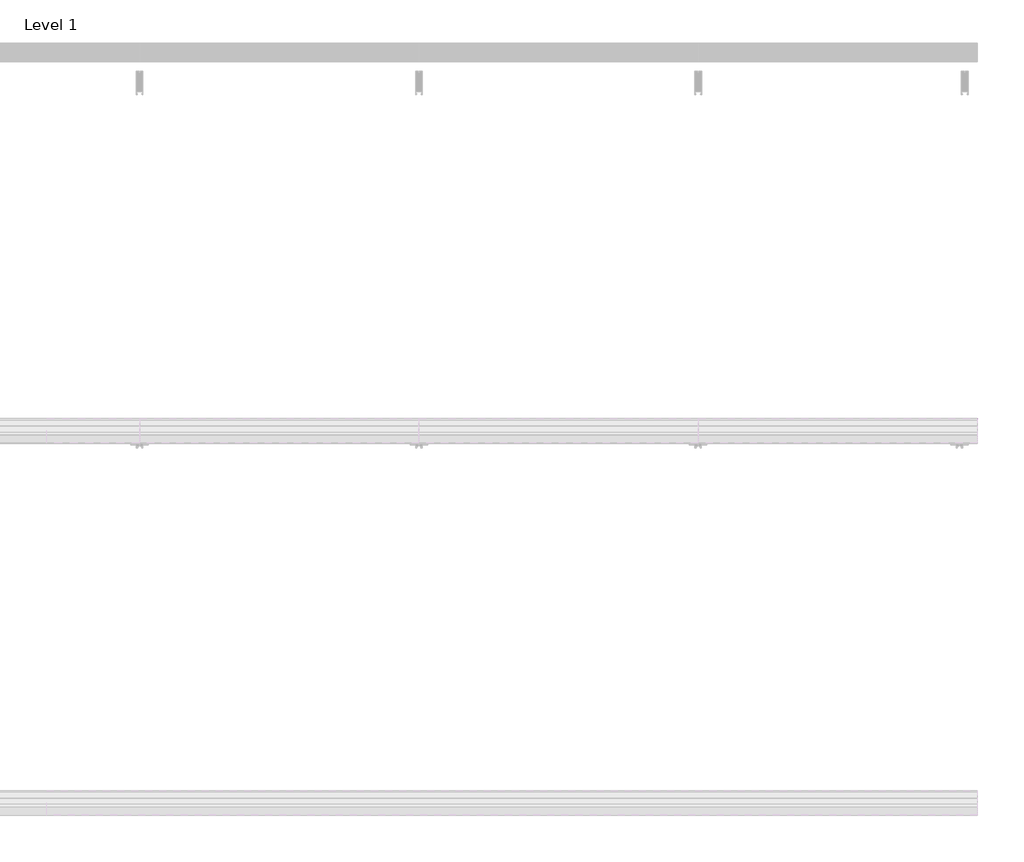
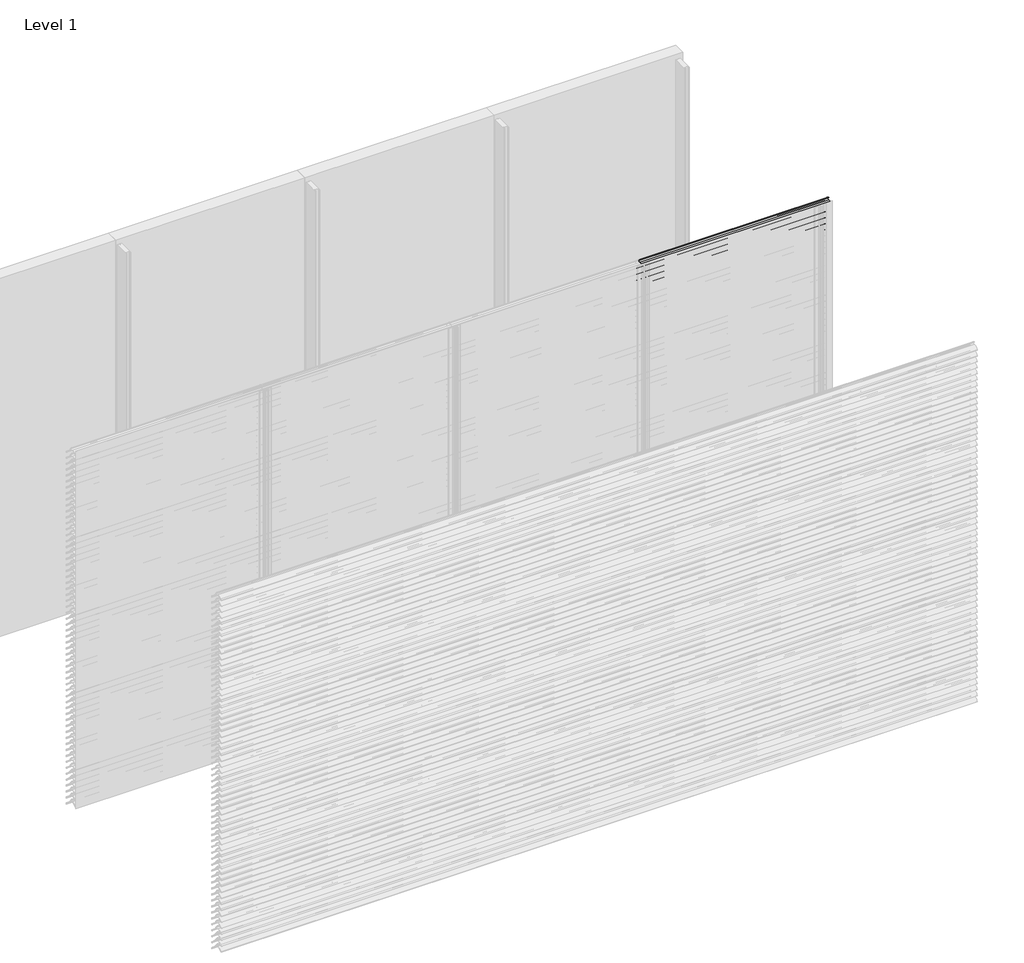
# One storey, part 16 of 173: 18 proxies.
"""IFC4 building model written with IfcOpenShell, lengths in millimetres."""

from ifc_helpers import new_model, si_unit, point, frame, frame_2d, origin, place, context, project, spatial, polyline, circle_curve, trimmed, segment, composite_curve, outline, extrude, element, save

model = new_model("IFC4")

# Units and contexts
model_context = context("Model", 3, world=origin())
ifc_project = project(units=[si_unit("LENGTHUNIT", "METRE", prefix="MILLI")], contexts=[model_context])

# Site, building, storey
site = spatial("IfcSite", under=ifc_project)
building = spatial("IfcBuilding", under=site)
storey = spatial("IfcBuildingStorey", under=building, Name="Level 1", Elevation=0.0)

# Proxies
placement = place(None, origin())
element("IfcBuildingElementProxy", 1, Name="Wall Sweeps", at=placement, inside=storey, context=model_context, shape_type="SweptSolid", body=[
    extrude(outline(composite_curve([segment(polyline([(-53998.0, 559.1474905), (-53998.0, 561.6227417)]), True, "CONTINUOUS"), segment(trimmed(circle_curve(frame_2d((-53951.2682172, 516.2200208)), 65.1557103), [point((-53998.0, 561.6227417))], [point((-53954.4014323, 581.3003524))], False, "CARTESIAN"), True, "CONTINUOUS"), segment(polyline([(-53954.4014323, 581.3003524), (-53934.8315836, 581.3003524)]), True, "CONTINUOUS"), segment(trimmed(circle_curve(frame_2d((-53732.7329489, 728.5533172)), 250.0545817), [point((-53934.8315836, 581.3003524))], [point((-53941.4452143, 590.8344583))], False, "CARTESIAN"), True, "CONTINUOUS"), segment(trimmed(circle_curve(frame_2d((-53953.2981792, 585.1737835)), 13.1352966), [point((-53941.4452143, 590.8344583))], [point((-53953.8171475, 598.298824))], True, "CARTESIAN"), True, "CONTINUOUS"), segment(polyline([(-53953.8171475, 598.298824), (-53953.8171475, 600.0)]), True, "CONTINUOUS"), segment(trimmed(circle_curve(frame_2d((-53953.2981792, 585.1737835)), 14.8352966), [point((-53953.8171475, 600.0))], [point((-53939.9637661, 591.6760487))], False, "CARTESIAN"), True, "CONTINUOUS"), segment(trimmed(circle_curve(frame_2d((-53732.7329489, 728.5533172)), 248.3545817), [point((-53939.9637661, 591.6760487))], [point((-53873.8787895, 524.2059416))], True, "CARTESIAN"), True, "CONTINUOUS"), segment(trimmed(circle_curve(frame_2d((-53883.8147537, 511.6649442)), 16.0), [point((-53873.8787895, 524.2059416))], [point((-53867.8648347, 510.4))], False, "CARTESIAN"), True, "CONTINUOUS"), segment(polyline([(-53867.8648347, 510.4), (-53869.6712069, 510.4)]), True, "CONTINUOUS"), segment(trimmed(circle_curve(frame_2d((-53883.8147537, 511.6649442)), 14.2), [point((-53869.6712069, 510.4))], [point((-53874.9518628, 522.7594998))], True, "CARTESIAN"), True, "CONTINUOUS"), segment(trimmed(circle_curve(frame_2d((-53732.7329489, 728.5533172)), 250.1545817), [point((-53874.9518628, 522.7594998))], [point((-53933.7064024, 579.6003524))], False, "CARTESIAN"), True, "CONTINUOUS"), segment(polyline([(-53933.7064024, 579.6003524), (-53954.3602632, 579.6003524)]), True, "CONTINUOUS"), segment(trimmed(circle_curve(frame_2d((-53951.2682172, 516.2200208)), 63.4557103), [point((-53954.3602632, 579.6003524))], [point((-53998.0, 559.1474905))], True, "CARTESIAN"), True, "CONTINUOUS")], self_intersect=False)), frame((3000.0, 0.0, 0.0), z_axis=(1.0, 0.0, 0.0), x_axis=(0.0, 1.0, 0.0)), (0.0, 0.0, 1.0), 1500.0),
])
element("IfcBuildingElementProxy", 2, Name="Wall Sweeps", at=placement, inside=storey, context=model_context, shape_type="SweptSolid", body=[
    extrude(outline(composite_curve([segment(polyline([(-53998.0, 509.1474905), (-53998.0, 511.6227417)]), True, "CONTINUOUS"), segment(trimmed(circle_curve(frame_2d((-53951.2682172, 466.2200208)), 65.1557103), [point((-53998.0, 511.6227417))], [point((-53954.4014323, 531.3003524))], False, "CARTESIAN"), True, "CONTINUOUS"), segment(polyline([(-53954.4014323, 531.3003524), (-53934.8315836, 531.3003524)]), True, "CONTINUOUS"), segment(trimmed(circle_curve(frame_2d((-53732.7329489, 678.5533172)), 250.0545817), [point((-53934.8315836, 531.3003524))], [point((-53941.4452143, 540.8344583))], False, "CARTESIAN"), True, "CONTINUOUS"), segment(trimmed(circle_curve(frame_2d((-53953.2981792, 535.1737835)), 13.1352966), [point((-53941.4452143, 540.8344583))], [point((-53953.8171475, 548.298824))], True, "CARTESIAN"), True, "CONTINUOUS"), segment(polyline([(-53953.8171475, 548.298824), (-53953.8171475, 550.0)]), True, "CONTINUOUS"), segment(trimmed(circle_curve(frame_2d((-53953.2981792, 535.1737835)), 14.8352966), [point((-53953.8171475, 550.0))], [point((-53939.9637661, 541.6760487))], False, "CARTESIAN"), True, "CONTINUOUS"), segment(trimmed(circle_curve(frame_2d((-53732.7329489, 678.5533172)), 248.3545817), [point((-53939.9637661, 541.6760487))], [point((-53873.8787895, 474.2059416))], True, "CARTESIAN"), True, "CONTINUOUS"), segment(trimmed(circle_curve(frame_2d((-53883.8147537, 461.6649442)), 16.0), [point((-53873.8787895, 474.2059416))], [point((-53867.8648347, 460.4))], False, "CARTESIAN"), True, "CONTINUOUS"), segment(polyline([(-53867.8648347, 460.4), (-53869.6712069, 460.4)]), True, "CONTINUOUS"), segment(trimmed(circle_curve(frame_2d((-53883.8147537, 461.6649442)), 14.2), [point((-53869.6712069, 460.4))], [point((-53874.9518628, 472.7594998))], True, "CARTESIAN"), True, "CONTINUOUS"), segment(trimmed(circle_curve(frame_2d((-53732.7329489, 678.5533172)), 250.1545817), [point((-53874.9518628, 472.7594998))], [point((-53933.7064024, 529.6003524))], False, "CARTESIAN"), True, "CONTINUOUS"), segment(polyline([(-53933.7064024, 529.6003524), (-53954.3602632, 529.6003524)]), True, "CONTINUOUS"), segment(trimmed(circle_curve(frame_2d((-53951.2682172, 466.2200208)), 63.4557103), [point((-53954.3602632, 529.6003524))], [point((-53998.0, 509.1474905))], True, "CARTESIAN"), True, "CONTINUOUS")], self_intersect=False)), frame((3000.0, 0.0, 0.0), z_axis=(1.0, 0.0, 0.0), x_axis=(0.0, 1.0, 0.0)), (0.0, 0.0, 1.0), 1500.0),
])
element("IfcBuildingElementProxy", 3, Name="Wall Sweeps", at=placement, inside=storey, context=model_context, shape_type="SweptSolid", body=[
    extrude(outline(composite_curve([segment(polyline([(-53998.0, 459.1474905), (-53998.0, 461.6227417)]), True, "CONTINUOUS"), segment(trimmed(circle_curve(frame_2d((-53951.2682172, 416.2200208)), 65.1557103), [point((-53998.0, 461.6227417))], [point((-53954.4014323, 481.3003524))], False, "CARTESIAN"), True, "CONTINUOUS"), segment(polyline([(-53954.4014323, 481.3003524), (-53934.8315836, 481.3003524)]), True, "CONTINUOUS"), segment(trimmed(circle_curve(frame_2d((-53732.7329489, 628.5533172)), 250.0545817), [point((-53934.8315836, 481.3003524))], [point((-53941.4452143, 490.8344583))], False, "CARTESIAN"), True, "CONTINUOUS"), segment(trimmed(circle_curve(frame_2d((-53953.2981792, 485.1737835)), 13.1352966), [point((-53941.4452143, 490.8344583))], [point((-53953.8171475, 498.298824))], True, "CARTESIAN"), True, "CONTINUOUS"), segment(polyline([(-53953.8171475, 498.298824), (-53953.8171475, 500.0)]), True, "CONTINUOUS"), segment(trimmed(circle_curve(frame_2d((-53953.2981792, 485.1737835)), 14.8352966), [point((-53953.8171475, 500.0))], [point((-53939.9637661, 491.6760487))], False, "CARTESIAN"), True, "CONTINUOUS"), segment(trimmed(circle_curve(frame_2d((-53732.7329489, 628.5533172)), 248.3545817), [point((-53939.9637661, 491.6760487))], [point((-53873.8787895, 424.2059416))], True, "CARTESIAN"), True, "CONTINUOUS"), segment(trimmed(circle_curve(frame_2d((-53883.8147537, 411.6649442)), 16.0), [point((-53873.8787895, 424.2059416))], [point((-53867.8648347, 410.4))], False, "CARTESIAN"), True, "CONTINUOUS"), segment(polyline([(-53867.8648347, 410.4), (-53869.6712069, 410.4)]), True, "CONTINUOUS"), segment(trimmed(circle_curve(frame_2d((-53883.8147537, 411.6649442)), 14.2), [point((-53869.6712069, 410.4))], [point((-53874.9518628, 422.7594998))], True, "CARTESIAN"), True, "CONTINUOUS"), segment(trimmed(circle_curve(frame_2d((-53732.7329489, 628.5533172)), 250.1545817), [point((-53874.9518628, 422.7594998))], [point((-53933.7064024, 479.6003524))], False, "CARTESIAN"), True, "CONTINUOUS"), segment(polyline([(-53933.7064024, 479.6003524), (-53954.3602632, 479.6003524)]), True, "CONTINUOUS"), segment(trimmed(circle_curve(frame_2d((-53951.2682172, 416.2200208)), 63.4557103), [point((-53954.3602632, 479.6003524))], [point((-53998.0, 459.1474905))], True, "CARTESIAN"), True, "CONTINUOUS")], self_intersect=False)), frame((3000.0, 0.0, 0.0), z_axis=(1.0, 0.0, 0.0), x_axis=(0.0, 1.0, 0.0)), (0.0, 0.0, 1.0), 1500.0),
])
element("IfcBuildingElementProxy", 4, Name="Wall Sweeps", at=placement, inside=storey, context=model_context, shape_type="SweptSolid", body=[
    extrude(outline(composite_curve([segment(polyline([(-53998.0, 409.1474905), (-53998.0, 411.6227417)]), True, "CONTINUOUS"), segment(trimmed(circle_curve(frame_2d((-53951.2682172, 366.2200208)), 65.1557103), [point((-53998.0, 411.6227417))], [point((-53954.4014323, 431.3003524))], False, "CARTESIAN"), True, "CONTINUOUS"), segment(polyline([(-53954.4014323, 431.3003524), (-53934.8315836, 431.3003524)]), True, "CONTINUOUS"), segment(trimmed(circle_curve(frame_2d((-53732.7329489, 578.5533172)), 250.0545817), [point((-53934.8315836, 431.3003524))], [point((-53941.4452143, 440.8344583))], False, "CARTESIAN"), True, "CONTINUOUS"), segment(trimmed(circle_curve(frame_2d((-53953.2981792, 435.1737835)), 13.1352966), [point((-53941.4452143, 440.8344583))], [point((-53953.8171475, 448.298824))], True, "CARTESIAN"), True, "CONTINUOUS"), segment(polyline([(-53953.8171475, 448.298824), (-53953.8171475, 450.0)]), True, "CONTINUOUS"), segment(trimmed(circle_curve(frame_2d((-53953.2981792, 435.1737835)), 14.8352966), [point((-53953.8171475, 450.0))], [point((-53939.9637661, 441.6760487))], False, "CARTESIAN"), True, "CONTINUOUS"), segment(trimmed(circle_curve(frame_2d((-53732.7329489, 578.5533172)), 248.3545817), [point((-53939.9637661, 441.6760487))], [point((-53873.8787895, 374.2059416))], True, "CARTESIAN"), True, "CONTINUOUS"), segment(trimmed(circle_curve(frame_2d((-53883.8147537, 361.6649442)), 16.0), [point((-53873.8787895, 374.2059416))], [point((-53867.8648347, 360.4))], False, "CARTESIAN"), True, "CONTINUOUS"), segment(polyline([(-53867.8648347, 360.4), (-53869.6712069, 360.4)]), True, "CONTINUOUS"), segment(trimmed(circle_curve(frame_2d((-53883.8147537, 361.6649442)), 14.2), [point((-53869.6712069, 360.4))], [point((-53874.9518628, 372.7594998))], True, "CARTESIAN"), True, "CONTINUOUS"), segment(trimmed(circle_curve(frame_2d((-53732.7329489, 578.5533172)), 250.1545817), [point((-53874.9518628, 372.7594998))], [point((-53933.7064024, 429.6003524))], False, "CARTESIAN"), True, "CONTINUOUS"), segment(polyline([(-53933.7064024, 429.6003524), (-53954.3602632, 429.6003524)]), True, "CONTINUOUS"), segment(trimmed(circle_curve(frame_2d((-53951.2682172, 366.2200208)), 63.4557103), [point((-53954.3602632, 429.6003524))], [point((-53998.0, 409.1474905))], True, "CARTESIAN"), True, "CONTINUOUS")], self_intersect=False)), frame((3000.0, 0.0, 0.0), z_axis=(1.0, 0.0, 0.0), x_axis=(0.0, 1.0, 0.0)), (0.0, 0.0, 1.0), 1500.0),
])
element("IfcBuildingElementProxy", 5, Name="Wall Sweeps", at=placement, inside=storey, context=model_context, shape_type="SweptSolid", body=[
    extrude(outline(composite_curve([segment(polyline([(-53998.0, 359.1474905), (-53998.0, 361.6227417)]), True, "CONTINUOUS"), segment(trimmed(circle_curve(frame_2d((-53951.2682172, 316.2200208)), 65.1557103), [point((-53998.0, 361.6227417))], [point((-53954.4014323, 381.3003524))], False, "CARTESIAN"), True, "CONTINUOUS"), segment(polyline([(-53954.4014323, 381.3003524), (-53934.8315836, 381.3003524)]), True, "CONTINUOUS"), segment(trimmed(circle_curve(frame_2d((-53732.7329489, 528.5533172)), 250.0545817), [point((-53934.8315836, 381.3003524))], [point((-53941.4452143, 390.8344583))], False, "CARTESIAN"), True, "CONTINUOUS"), segment(trimmed(circle_curve(frame_2d((-53953.2981792, 385.1737835)), 13.1352966), [point((-53941.4452143, 390.8344583))], [point((-53953.8171475, 398.298824))], True, "CARTESIAN"), True, "CONTINUOUS"), segment(polyline([(-53953.8171475, 398.298824), (-53953.8171475, 400.0)]), True, "CONTINUOUS"), segment(trimmed(circle_curve(frame_2d((-53953.2981792, 385.1737835)), 14.8352966), [point((-53953.8171475, 400.0))], [point((-53939.9637661, 391.6760487))], False, "CARTESIAN"), True, "CONTINUOUS"), segment(trimmed(circle_curve(frame_2d((-53732.7329489, 528.5533172)), 248.3545817), [point((-53939.9637661, 391.6760487))], [point((-53873.8787895, 324.2059416))], True, "CARTESIAN"), True, "CONTINUOUS"), segment(trimmed(circle_curve(frame_2d((-53883.8147537, 311.6649442)), 16.0), [point((-53873.8787895, 324.2059416))], [point((-53867.8648347, 310.4))], False, "CARTESIAN"), True, "CONTINUOUS"), segment(polyline([(-53867.8648347, 310.4), (-53869.6712069, 310.4)]), True, "CONTINUOUS"), segment(trimmed(circle_curve(frame_2d((-53883.8147537, 311.6649442)), 14.2), [point((-53869.6712069, 310.4))], [point((-53874.9518628, 322.7594998))], True, "CARTESIAN"), True, "CONTINUOUS"), segment(trimmed(circle_curve(frame_2d((-53732.7329489, 528.5533172)), 250.1545817), [point((-53874.9518628, 322.7594998))], [point((-53933.7064024, 379.6003524))], False, "CARTESIAN"), True, "CONTINUOUS"), segment(polyline([(-53933.7064024, 379.6003524), (-53954.3602632, 379.6003524)]), True, "CONTINUOUS"), segment(trimmed(circle_curve(frame_2d((-53951.2682172, 316.2200208)), 63.4557103), [point((-53954.3602632, 379.6003524))], [point((-53998.0, 359.1474905))], True, "CARTESIAN"), True, "CONTINUOUS")], self_intersect=False)), frame((3000.0, 0.0, 0.0), z_axis=(1.0, 0.0, 0.0), x_axis=(0.0, 1.0, 0.0)), (0.0, 0.0, 1.0), 1500.0),
])
element("IfcBuildingElementProxy", 6, Name="Wall Sweeps", at=placement, inside=storey, context=model_context, shape_type="SweptSolid", body=[
    extrude(outline(composite_curve([segment(polyline([(-53998.0, 309.1474905), (-53998.0, 311.6227417)]), True, "CONTINUOUS"), segment(trimmed(circle_curve(frame_2d((-53951.2682172, 266.2200208)), 65.1557103), [point((-53998.0, 311.6227417))], [point((-53954.4014323, 331.3003524))], False, "CARTESIAN"), True, "CONTINUOUS"), segment(polyline([(-53954.4014323, 331.3003524), (-53934.8315836, 331.3003524)]), True, "CONTINUOUS"), segment(trimmed(circle_curve(frame_2d((-53732.7329489, 478.5533172)), 250.0545817), [point((-53934.8315836, 331.3003524))], [point((-53941.4452143, 340.8344583))], False, "CARTESIAN"), True, "CONTINUOUS"), segment(trimmed(circle_curve(frame_2d((-53953.2981792, 335.1737835)), 13.1352966), [point((-53941.4452143, 340.8344583))], [point((-53953.8171475, 348.298824))], True, "CARTESIAN"), True, "CONTINUOUS"), segment(polyline([(-53953.8171475, 348.298824), (-53953.8171475, 350.0)]), True, "CONTINUOUS"), segment(trimmed(circle_curve(frame_2d((-53953.2981792, 335.1737835)), 14.8352966), [point((-53953.8171475, 350.0))], [point((-53939.9637661, 341.6760487))], False, "CARTESIAN"), True, "CONTINUOUS"), segment(trimmed(circle_curve(frame_2d((-53732.7329489, 478.5533172)), 248.3545817), [point((-53939.9637661, 341.6760487))], [point((-53873.8787895, 274.2059416))], True, "CARTESIAN"), True, "CONTINUOUS"), segment(trimmed(circle_curve(frame_2d((-53883.8147537, 261.6649442)), 16.0), [point((-53873.8787895, 274.2059416))], [point((-53867.8648347, 260.4))], False, "CARTESIAN"), True, "CONTINUOUS"), segment(polyline([(-53867.8648347, 260.4), (-53869.6712069, 260.4)]), True, "CONTINUOUS"), segment(trimmed(circle_curve(frame_2d((-53883.8147537, 261.6649442)), 14.2), [point((-53869.6712069, 260.4))], [point((-53874.9518628, 272.7594998))], True, "CARTESIAN"), True, "CONTINUOUS"), segment(trimmed(circle_curve(frame_2d((-53732.7329489, 478.5533172)), 250.1545817), [point((-53874.9518628, 272.7594998))], [point((-53933.7064024, 329.6003524))], False, "CARTESIAN"), True, "CONTINUOUS"), segment(polyline([(-53933.7064024, 329.6003524), (-53954.3602632, 329.6003524)]), True, "CONTINUOUS"), segment(trimmed(circle_curve(frame_2d((-53951.2682172, 266.2200208)), 63.4557103), [point((-53954.3602632, 329.6003524))], [point((-53998.0, 309.1474905))], True, "CARTESIAN"), True, "CONTINUOUS")], self_intersect=False)), frame((3000.0, 0.0, 0.0), z_axis=(1.0, 0.0, 0.0), x_axis=(0.0, 1.0, 0.0)), (0.0, 0.0, 1.0), 1500.0),
])
element("IfcBuildingElementProxy", 7, Name="Wall Sweeps", at=placement, inside=storey, context=model_context, shape_type="SweptSolid", body=[
    extrude(outline(composite_curve([segment(polyline([(-53998.0, 259.1474905), (-53998.0, 261.6227417)]), True, "CONTINUOUS"), segment(trimmed(circle_curve(frame_2d((-53951.2682172, 216.2200208)), 65.1557103), [point((-53998.0, 261.6227417))], [point((-53954.4014323, 281.3003524))], False, "CARTESIAN"), True, "CONTINUOUS"), segment(polyline([(-53954.4014323, 281.3003524), (-53934.8315836, 281.3003524)]), True, "CONTINUOUS"), segment(trimmed(circle_curve(frame_2d((-53732.7329489, 428.5533172)), 250.0545817), [point((-53934.8315836, 281.3003524))], [point((-53941.4452143, 290.8344583))], False, "CARTESIAN"), True, "CONTINUOUS"), segment(trimmed(circle_curve(frame_2d((-53953.2981792, 285.1737835)), 13.1352966), [point((-53941.4452143, 290.8344583))], [point((-53953.8171475, 298.298824))], True, "CARTESIAN"), True, "CONTINUOUS"), segment(polyline([(-53953.8171475, 298.298824), (-53953.8171475, 300.0)]), True, "CONTINUOUS"), segment(trimmed(circle_curve(frame_2d((-53953.2981792, 285.1737835)), 14.8352966), [point((-53953.8171475, 300.0))], [point((-53939.9637661, 291.6760487))], False, "CARTESIAN"), True, "CONTINUOUS"), segment(trimmed(circle_curve(frame_2d((-53732.7329489, 428.5533172)), 248.3545817), [point((-53939.9637661, 291.6760487))], [point((-53873.8787895, 224.2059416))], True, "CARTESIAN"), True, "CONTINUOUS"), segment(trimmed(circle_curve(frame_2d((-53883.8147537, 211.6649442)), 16.0), [point((-53873.8787895, 224.2059416))], [point((-53867.8648347, 210.4))], False, "CARTESIAN"), True, "CONTINUOUS"), segment(polyline([(-53867.8648347, 210.4), (-53869.6712069, 210.4)]), True, "CONTINUOUS"), segment(trimmed(circle_curve(frame_2d((-53883.8147537, 211.6649442)), 14.2), [point((-53869.6712069, 210.4))], [point((-53874.9518628, 222.7594998))], True, "CARTESIAN"), True, "CONTINUOUS"), segment(trimmed(circle_curve(frame_2d((-53732.7329489, 428.5533172)), 250.1545817), [point((-53874.9518628, 222.7594998))], [point((-53933.7064024, 279.6003524))], False, "CARTESIAN"), True, "CONTINUOUS"), segment(polyline([(-53933.7064024, 279.6003524), (-53954.3602632, 279.6003524)]), True, "CONTINUOUS"), segment(trimmed(circle_curve(frame_2d((-53951.2682172, 216.2200208)), 63.4557103), [point((-53954.3602632, 279.6003524))], [point((-53998.0, 259.1474905))], True, "CARTESIAN"), True, "CONTINUOUS")], self_intersect=False)), frame((3000.0, 0.0, 0.0), z_axis=(1.0, 0.0, 0.0), x_axis=(0.0, 1.0, 0.0)), (0.0, 0.0, 1.0), 1500.0),
])
element("IfcBuildingElementProxy", 8, Name="Wall Sweeps", at=placement, inside=storey, context=model_context, shape_type="SweptSolid", body=[
    extrude(outline(composite_curve([segment(polyline([(-53998.0, 209.1474905), (-53998.0, 211.6227417)]), True, "CONTINUOUS"), segment(trimmed(circle_curve(frame_2d((-53951.2682172, 166.2200208)), 65.1557103), [point((-53998.0, 211.6227417))], [point((-53954.4014323, 231.3003524))], False, "CARTESIAN"), True, "CONTINUOUS"), segment(polyline([(-53954.4014323, 231.3003524), (-53934.8315836, 231.3003524)]), True, "CONTINUOUS"), segment(trimmed(circle_curve(frame_2d((-53732.7329489, 378.5533172)), 250.0545817), [point((-53934.8315836, 231.3003524))], [point((-53941.4452143, 240.8344583))], False, "CARTESIAN"), True, "CONTINUOUS"), segment(trimmed(circle_curve(frame_2d((-53953.2981792, 235.1737835)), 13.1352966), [point((-53941.4452143, 240.8344583))], [point((-53953.8171475, 248.298824))], True, "CARTESIAN"), True, "CONTINUOUS"), segment(polyline([(-53953.8171475, 248.298824), (-53953.8171475, 250.0)]), True, "CONTINUOUS"), segment(trimmed(circle_curve(frame_2d((-53953.2981792, 235.1737835)), 14.8352966), [point((-53953.8171475, 250.0))], [point((-53939.9637661, 241.6760487))], False, "CARTESIAN"), True, "CONTINUOUS"), segment(trimmed(circle_curve(frame_2d((-53732.7329489, 378.5533172)), 248.3545817), [point((-53939.9637661, 241.6760487))], [point((-53873.8787895, 174.2059416))], True, "CARTESIAN"), True, "CONTINUOUS"), segment(trimmed(circle_curve(frame_2d((-53883.8147537, 161.6649442)), 16.0), [point((-53873.8787895, 174.2059416))], [point((-53867.8648347, 160.4))], False, "CARTESIAN"), True, "CONTINUOUS"), segment(polyline([(-53867.8648347, 160.4), (-53869.6712069, 160.4)]), True, "CONTINUOUS"), segment(trimmed(circle_curve(frame_2d((-53883.8147537, 161.6649442)), 14.2), [point((-53869.6712069, 160.4))], [point((-53874.9518628, 172.7594998))], True, "CARTESIAN"), True, "CONTINUOUS"), segment(trimmed(circle_curve(frame_2d((-53732.7329489, 378.5533172)), 250.1545817), [point((-53874.9518628, 172.7594998))], [point((-53933.7064024, 229.6003524))], False, "CARTESIAN"), True, "CONTINUOUS"), segment(polyline([(-53933.7064024, 229.6003524), (-53954.3602632, 229.6003524)]), True, "CONTINUOUS"), segment(trimmed(circle_curve(frame_2d((-53951.2682172, 166.2200208)), 63.4557103), [point((-53954.3602632, 229.6003524))], [point((-53998.0, 209.1474905))], True, "CARTESIAN"), True, "CONTINUOUS")], self_intersect=False)), frame((3000.0, 0.0, 0.0), z_axis=(1.0, 0.0, 0.0), x_axis=(0.0, 1.0, 0.0)), (0.0, 0.0, 1.0), 1500.0),
])
element("IfcBuildingElementProxy", 9, Name="Wall Sweeps", at=placement, inside=storey, context=model_context, shape_type="SweptSolid", body=[
    extrude(outline(composite_curve([segment(polyline([(-53998.0, 159.1474905), (-53998.0, 161.6227417)]), True, "CONTINUOUS"), segment(trimmed(circle_curve(frame_2d((-53951.2682172, 116.2200208)), 65.1557103), [point((-53998.0, 161.6227417))], [point((-53954.4014323, 181.3003524))], False, "CARTESIAN"), True, "CONTINUOUS"), segment(polyline([(-53954.4014323, 181.3003524), (-53934.8315836, 181.3003524)]), True, "CONTINUOUS"), segment(trimmed(circle_curve(frame_2d((-53732.7329489, 328.5533172)), 250.0545817), [point((-53934.8315836, 181.3003524))], [point((-53941.4452143, 190.8344583))], False, "CARTESIAN"), True, "CONTINUOUS"), segment(trimmed(circle_curve(frame_2d((-53953.2981792, 185.1737835)), 13.1352966), [point((-53941.4452143, 190.8344583))], [point((-53953.8171475, 198.298824))], True, "CARTESIAN"), True, "CONTINUOUS"), segment(polyline([(-53953.8171475, 198.298824), (-53953.8171475, 200.0)]), True, "CONTINUOUS"), segment(trimmed(circle_curve(frame_2d((-53953.2981792, 185.1737835)), 14.8352966), [point((-53953.8171475, 200.0))], [point((-53939.9637661, 191.6760487))], False, "CARTESIAN"), True, "CONTINUOUS"), segment(trimmed(circle_curve(frame_2d((-53732.7329489, 328.5533172)), 248.3545817), [point((-53939.9637661, 191.6760487))], [point((-53873.8787895, 124.2059416))], True, "CARTESIAN"), True, "CONTINUOUS"), segment(trimmed(circle_curve(frame_2d((-53883.8147537, 111.6649442)), 16.0), [point((-53873.8787895, 124.2059416))], [point((-53867.8648347, 110.4))], False, "CARTESIAN"), True, "CONTINUOUS"), segment(polyline([(-53867.8648347, 110.4), (-53869.6712069, 110.4)]), True, "CONTINUOUS"), segment(trimmed(circle_curve(frame_2d((-53883.8147537, 111.6649442)), 14.2), [point((-53869.6712069, 110.4))], [point((-53874.9518628, 122.7594998))], True, "CARTESIAN"), True, "CONTINUOUS"), segment(trimmed(circle_curve(frame_2d((-53732.7329489, 328.5533172)), 250.1545817), [point((-53874.9518628, 122.7594998))], [point((-53933.7064024, 179.6003524))], False, "CARTESIAN"), True, "CONTINUOUS"), segment(polyline([(-53933.7064024, 179.6003524), (-53954.3602632, 179.6003524)]), True, "CONTINUOUS"), segment(trimmed(circle_curve(frame_2d((-53951.2682172, 116.2200208)), 63.4557103), [point((-53954.3602632, 179.6003524))], [point((-53998.0, 159.1474905))], True, "CARTESIAN"), True, "CONTINUOUS")], self_intersect=False)), frame((3000.0, 0.0, 0.0), z_axis=(1.0, 0.0, 0.0), x_axis=(0.0, 1.0, 0.0)), (0.0, 0.0, 1.0), 1500.0),
])
element("IfcBuildingElementProxy", 10, Name="Wall Sweeps", at=placement, inside=storey, context=model_context, shape_type="SweptSolid", body=[
    extrude(outline(composite_curve([segment(polyline([(-53998.0, 109.1474905), (-53998.0, 111.6227417)]), True, "CONTINUOUS"), segment(trimmed(circle_curve(frame_2d((-53951.2682172, 66.2200208)), 65.1557103), [point((-53998.0, 111.6227417))], [point((-53954.4014323, 131.3003524))], False, "CARTESIAN"), True, "CONTINUOUS"), segment(polyline([(-53954.4014323, 131.3003524), (-53934.8315836, 131.3003524)]), True, "CONTINUOUS"), segment(trimmed(circle_curve(frame_2d((-53732.7329489, 278.5533172)), 250.0545817), [point((-53934.8315836, 131.3003524))], [point((-53941.4452143, 140.8344583))], False, "CARTESIAN"), True, "CONTINUOUS"), segment(trimmed(circle_curve(frame_2d((-53953.2981792, 135.1737835)), 13.1352966), [point((-53941.4452143, 140.8344583))], [point((-53953.8171475, 148.298824))], True, "CARTESIAN"), True, "CONTINUOUS"), segment(polyline([(-53953.8171475, 148.298824), (-53953.8171475, 150.0)]), True, "CONTINUOUS"), segment(trimmed(circle_curve(frame_2d((-53953.2981792, 135.1737835)), 14.8352966), [point((-53953.8171475, 150.0))], [point((-53939.9637661, 141.6760487))], False, "CARTESIAN"), True, "CONTINUOUS"), segment(trimmed(circle_curve(frame_2d((-53732.7329489, 278.5533172)), 248.3545817), [point((-53939.9637661, 141.6760487))], [point((-53873.8787895, 74.2059416))], True, "CARTESIAN"), True, "CONTINUOUS"), segment(trimmed(circle_curve(frame_2d((-53883.8147537, 61.6649442)), 16.0), [point((-53873.8787895, 74.2059416))], [point((-53867.8648347, 60.4))], False, "CARTESIAN"), True, "CONTINUOUS"), segment(polyline([(-53867.8648347, 60.4), (-53869.6712069, 60.4)]), True, "CONTINUOUS"), segment(trimmed(circle_curve(frame_2d((-53883.8147537, 61.6649442)), 14.2), [point((-53869.6712069, 60.4))], [point((-53874.9518628, 72.7594998))], True, "CARTESIAN"), True, "CONTINUOUS"), segment(trimmed(circle_curve(frame_2d((-53732.7329489, 278.5533172)), 250.1545817), [point((-53874.9518628, 72.7594998))], [point((-53933.7064024, 129.6003524))], False, "CARTESIAN"), True, "CONTINUOUS"), segment(polyline([(-53933.7064024, 129.6003524), (-53954.3602632, 129.6003524)]), True, "CONTINUOUS"), segment(trimmed(circle_curve(frame_2d((-53951.2682172, 66.2200208)), 63.4557103), [point((-53954.3602632, 129.6003524))], [point((-53998.0, 109.1474905))], True, "CARTESIAN"), True, "CONTINUOUS")], self_intersect=False)), frame((3000.0, 0.0, 0.0), z_axis=(1.0, 0.0, 0.0), x_axis=(0.0, 1.0, 0.0)), (0.0, 0.0, 1.0), 1500.0),
])
element("IfcBuildingElementProxy", 11, Name="Wall Sweeps", at=placement, inside=storey, context=model_context, shape_type="SweptSolid", body=[
    extrude(outline(composite_curve([segment(polyline([(-53998.0, 59.1474905), (-53998.0, 61.6227417)]), True, "CONTINUOUS"), segment(trimmed(circle_curve(frame_2d((-53951.2682172, 16.2200208)), 65.1557103), [point((-53998.0, 61.6227417))], [point((-53954.4014323, 81.3003524))], False, "CARTESIAN"), True, "CONTINUOUS"), segment(polyline([(-53954.4014323, 81.3003524), (-53934.8315836, 81.3003524)]), True, "CONTINUOUS"), segment(trimmed(circle_curve(frame_2d((-53732.7329489, 228.5533172)), 250.0545817), [point((-53934.8315836, 81.3003524))], [point((-53941.4452143, 90.8344583))], False, "CARTESIAN"), True, "CONTINUOUS"), segment(trimmed(circle_curve(frame_2d((-53953.2981792, 85.1737835)), 13.1352966), [point((-53941.4452143, 90.8344583))], [point((-53953.8171475, 98.298824))], True, "CARTESIAN"), True, "CONTINUOUS"), segment(polyline([(-53953.8171475, 98.298824), (-53953.8171475, 100.0)]), True, "CONTINUOUS"), segment(trimmed(circle_curve(frame_2d((-53953.2981792, 85.1737835)), 14.8352966), [point((-53953.8171475, 100.0))], [point((-53939.9637661, 91.6760487))], False, "CARTESIAN"), True, "CONTINUOUS"), segment(trimmed(circle_curve(frame_2d((-53732.7329489, 228.5533172)), 248.3545817), [point((-53939.9637661, 91.6760487))], [point((-53873.8787895, 24.2059416))], True, "CARTESIAN"), True, "CONTINUOUS"), segment(trimmed(circle_curve(frame_2d((-53883.8147537, 11.6649442)), 16.0), [point((-53873.8787895, 24.2059416))], [point((-53867.8648347, 10.4))], False, "CARTESIAN"), True, "CONTINUOUS"), segment(polyline([(-53867.8648347, 10.4), (-53869.6712069, 10.4)]), True, "CONTINUOUS"), segment(trimmed(circle_curve(frame_2d((-53883.8147537, 11.6649442)), 14.2), [point((-53869.6712069, 10.4))], [point((-53874.9518628, 22.7594998))], True, "CARTESIAN"), True, "CONTINUOUS"), segment(trimmed(circle_curve(frame_2d((-53732.7329489, 228.5533172)), 250.1545817), [point((-53874.9518628, 22.7594998))], [point((-53933.7064024, 79.6003524))], False, "CARTESIAN"), True, "CONTINUOUS"), segment(polyline([(-53933.7064024, 79.6003524), (-53954.3602632, 79.6003524)]), True, "CONTINUOUS"), segment(trimmed(circle_curve(frame_2d((-53951.2682172, 16.2200208)), 63.4557103), [point((-53954.3602632, 79.6003524))], [point((-53998.0, 59.1474905))], True, "CARTESIAN"), True, "CONTINUOUS")], self_intersect=False)), frame((3000.0, 0.0, 0.0), z_axis=(1.0, 0.0, 0.0), x_axis=(0.0, 1.0, 0.0)), (0.0, 0.0, 1.0), 1500.0),
])
element("IfcBuildingElementProxy", 12, Name="Wall Sweeps", at=placement, inside=storey, context=model_context, shape_type="SweptSolid", body=[
    extrude(outline(composite_curve([segment(polyline([(-53998.0, 9.1474905), (-53998.0, 11.6227417)]), True, "CONTINUOUS"), segment(trimmed(circle_curve(frame_2d((-53951.2682172, -33.7799792)), 65.1557103), [point((-53998.0, 11.6227417))], [point((-53954.4014323, 31.3003524))], False, "CARTESIAN"), True, "CONTINUOUS"), segment(polyline([(-53954.4014323, 31.3003524), (-53934.8315836, 31.3003524)]), True, "CONTINUOUS"), segment(trimmed(circle_curve(frame_2d((-53732.7329489, 178.5533172)), 250.0545817), [point((-53934.8315836, 31.3003524))], [point((-53941.4452143, 40.8344583))], False, "CARTESIAN"), True, "CONTINUOUS"), segment(trimmed(circle_curve(frame_2d((-53953.2981792, 35.1737835)), 13.1352966), [point((-53941.4452143, 40.8344583))], [point((-53953.8171475, 48.298824))], True, "CARTESIAN"), True, "CONTINUOUS"), segment(polyline([(-53953.8171475, 48.298824), (-53953.8171475, 50.0)]), True, "CONTINUOUS"), segment(trimmed(circle_curve(frame_2d((-53953.2981792, 35.1737835)), 14.8352966), [point((-53953.8171475, 50.0))], [point((-53939.9637661, 41.6760487))], False, "CARTESIAN"), True, "CONTINUOUS"), segment(trimmed(circle_curve(frame_2d((-53732.7329489, 178.5533172)), 248.3545817), [point((-53939.9637661, 41.6760487))], [point((-53873.8787895, -25.7940584))], True, "CARTESIAN"), True, "CONTINUOUS"), segment(trimmed(circle_curve(frame_2d((-53883.8147537, -38.3350558)), 16.0), [point((-53873.8787895, -25.7940584))], [point((-53867.8648347, -39.6))], False, "CARTESIAN"), True, "CONTINUOUS"), segment(polyline([(-53867.8648347, -39.6), (-53869.6712069, -39.6)]), True, "CONTINUOUS"), segment(trimmed(circle_curve(frame_2d((-53883.8147537, -38.3350558)), 14.2), [point((-53869.6712069, -39.6))], [point((-53874.9518628, -27.2405002))], True, "CARTESIAN"), True, "CONTINUOUS"), segment(trimmed(circle_curve(frame_2d((-53732.7329489, 178.5533172)), 250.1545817), [point((-53874.9518628, -27.2405002))], [point((-53933.7064024, 29.6003524))], False, "CARTESIAN"), True, "CONTINUOUS"), segment(polyline([(-53933.7064024, 29.6003524), (-53954.3602632, 29.6003524)]), True, "CONTINUOUS"), segment(trimmed(circle_curve(frame_2d((-53951.2682172, -33.7799792)), 63.4557103), [point((-53954.3602632, 29.6003524))], [point((-53998.0, 9.1474905))], True, "CARTESIAN"), True, "CONTINUOUS")], self_intersect=False)), frame((3000.0, 0.0, 0.0), z_axis=(1.0, 0.0, 0.0), x_axis=(0.0, 1.0, 0.0)), (0.0, 0.0, 1.0), 1500.0),
])
element("IfcBuildingElementProxy", 13, Name="Wall Sweeps", at=placement, inside=storey, context=model_context, shape_type="SweptSolid", body=[
    extrude(outline(composite_curve([segment(polyline([(-53998.0, 2959.1474905), (-53998.0, 2961.6227417)]), True, "CONTINUOUS"), segment(trimmed(circle_curve(frame_2d((-53951.2682172, 2916.2200208)), 65.1557103), [point((-53998.0, 2961.6227417))], [point((-53954.4014323, 2981.3003524))], False, "CARTESIAN"), True, "CONTINUOUS"), segment(polyline([(-53954.4014323, 2981.3003524), (-53934.8315836, 2981.3003524)]), True, "CONTINUOUS"), segment(trimmed(circle_curve(frame_2d((-53732.7329489, 3128.5533172)), 250.0545817), [point((-53934.8315836, 2981.3003524))], [point((-53941.4452143, 2990.8344583))], False, "CARTESIAN"), True, "CONTINUOUS"), segment(trimmed(circle_curve(frame_2d((-53953.2981792, 2985.1737835)), 13.1352966), [point((-53941.4452143, 2990.8344583))], [point((-53953.8171475, 2998.298824))], True, "CARTESIAN"), True, "CONTINUOUS"), segment(polyline([(-53953.8171475, 2998.298824), (-53953.8171475, 3000.0)]), True, "CONTINUOUS"), segment(trimmed(circle_curve(frame_2d((-53953.2981792, 2985.1737835)), 14.8352966), [point((-53953.8171475, 3000.0))], [point((-53939.9637661, 2991.6760487))], False, "CARTESIAN"), True, "CONTINUOUS"), segment(trimmed(circle_curve(frame_2d((-53732.7329489, 3128.5533172)), 248.3545817), [point((-53939.9637661, 2991.6760487))], [point((-53873.8787895, 2924.2059416))], True, "CARTESIAN"), True, "CONTINUOUS"), segment(trimmed(circle_curve(frame_2d((-53883.8147537, 2911.6649442)), 16.0), [point((-53873.8787895, 2924.2059416))], [point((-53867.8648347, 2910.4))], False, "CARTESIAN"), True, "CONTINUOUS"), segment(polyline([(-53867.8648347, 2910.4), (-53869.6712069, 2910.4)]), True, "CONTINUOUS"), segment(trimmed(circle_curve(frame_2d((-53883.8147537, 2911.6649442)), 14.2), [point((-53869.6712069, 2910.4))], [point((-53874.9518628, 2922.7594998))], True, "CARTESIAN"), True, "CONTINUOUS"), segment(trimmed(circle_curve(frame_2d((-53732.7329489, 3128.5533172)), 250.1545817), [point((-53874.9518628, 2922.7594998))], [point((-53933.7064024, 2979.6003524))], False, "CARTESIAN"), True, "CONTINUOUS"), segment(polyline([(-53933.7064024, 2979.6003524), (-53954.3602632, 2979.6003524)]), True, "CONTINUOUS"), segment(trimmed(circle_curve(frame_2d((-53951.2682172, 2916.2200208)), 63.4557103), [point((-53954.3602632, 2979.6003524))], [point((-53998.0, 2959.1474905))], True, "CARTESIAN"), True, "CONTINUOUS")], self_intersect=False)), frame((4500.0, 0.0, 0.0), z_axis=(1.0, 0.0, 0.0), x_axis=(0.0, 1.0, 0.0)), (0.0, 0.0, 1.0), 1500.0),
])
element("IfcBuildingElementProxy", 14, Name="Wall Sweeps", at=placement, inside=storey, context=model_context, shape_type="SweptSolid", body=[
    extrude(outline(composite_curve([segment(polyline([(-53998.0, 2909.1474905), (-53998.0, 2911.6227417)]), True, "CONTINUOUS"), segment(trimmed(circle_curve(frame_2d((-53951.2682172, 2866.2200208)), 65.1557103), [point((-53998.0, 2911.6227417))], [point((-53954.4014323, 2931.3003524))], False, "CARTESIAN"), True, "CONTINUOUS"), segment(polyline([(-53954.4014323, 2931.3003524), (-53934.8315836, 2931.3003524)]), True, "CONTINUOUS"), segment(trimmed(circle_curve(frame_2d((-53732.7329489, 3078.5533172)), 250.0545817), [point((-53934.8315836, 2931.3003524))], [point((-53941.4452143, 2940.8344583))], False, "CARTESIAN"), True, "CONTINUOUS"), segment(trimmed(circle_curve(frame_2d((-53953.2981792, 2935.1737835)), 13.1352966), [point((-53941.4452143, 2940.8344583))], [point((-53953.8171475, 2948.298824))], True, "CARTESIAN"), True, "CONTINUOUS"), segment(polyline([(-53953.8171475, 2948.298824), (-53953.8171475, 2950.0)]), True, "CONTINUOUS"), segment(trimmed(circle_curve(frame_2d((-53953.2981792, 2935.1737835)), 14.8352966), [point((-53953.8171475, 2950.0))], [point((-53939.9637661, 2941.6760487))], False, "CARTESIAN"), True, "CONTINUOUS"), segment(trimmed(circle_curve(frame_2d((-53732.7329489, 3078.5533172)), 248.3545817), [point((-53939.9637661, 2941.6760487))], [point((-53873.8787895, 2874.2059416))], True, "CARTESIAN"), True, "CONTINUOUS"), segment(trimmed(circle_curve(frame_2d((-53883.8147537, 2861.6649442)), 16.0), [point((-53873.8787895, 2874.2059416))], [point((-53867.8648347, 2860.4))], False, "CARTESIAN"), True, "CONTINUOUS"), segment(polyline([(-53867.8648347, 2860.4), (-53869.6712069, 2860.4)]), True, "CONTINUOUS"), segment(trimmed(circle_curve(frame_2d((-53883.8147537, 2861.6649442)), 14.2), [point((-53869.6712069, 2860.4))], [point((-53874.9518628, 2872.7594998))], True, "CARTESIAN"), True, "CONTINUOUS"), segment(trimmed(circle_curve(frame_2d((-53732.7329489, 3078.5533172)), 250.1545817), [point((-53874.9518628, 2872.7594998))], [point((-53933.7064024, 2929.6003524))], False, "CARTESIAN"), True, "CONTINUOUS"), segment(polyline([(-53933.7064024, 2929.6003524), (-53954.3602632, 2929.6003524)]), True, "CONTINUOUS"), segment(trimmed(circle_curve(frame_2d((-53951.2682172, 2866.2200208)), 63.4557103), [point((-53954.3602632, 2929.6003524))], [point((-53998.0, 2909.1474905))], True, "CARTESIAN"), True, "CONTINUOUS")], self_intersect=False)), frame((4500.0, 0.0, 0.0), z_axis=(1.0, 0.0, 0.0), x_axis=(0.0, 1.0, 0.0)), (0.0, 0.0, 1.0), 1500.0),
])
element("IfcBuildingElementProxy", 15, Name="Wall Sweeps", at=placement, inside=storey, context=model_context, shape_type="SweptSolid", body=[
    extrude(outline(composite_curve([segment(polyline([(-53998.0, 2859.1474905), (-53998.0, 2861.6227417)]), True, "CONTINUOUS"), segment(trimmed(circle_curve(frame_2d((-53951.2682172, 2816.2200208)), 65.1557103), [point((-53998.0, 2861.6227417))], [point((-53954.4014323, 2881.3003524))], False, "CARTESIAN"), True, "CONTINUOUS"), segment(polyline([(-53954.4014323, 2881.3003524), (-53934.8315836, 2881.3003524)]), True, "CONTINUOUS"), segment(trimmed(circle_curve(frame_2d((-53732.7329489, 3028.5533172)), 250.0545817), [point((-53934.8315836, 2881.3003524))], [point((-53941.4452143, 2890.8344583))], False, "CARTESIAN"), True, "CONTINUOUS"), segment(trimmed(circle_curve(frame_2d((-53953.2981792, 2885.1737835)), 13.1352966), [point((-53941.4452143, 2890.8344583))], [point((-53953.8171475, 2898.298824))], True, "CARTESIAN"), True, "CONTINUOUS"), segment(polyline([(-53953.8171475, 2898.298824), (-53953.8171475, 2900.0)]), True, "CONTINUOUS"), segment(trimmed(circle_curve(frame_2d((-53953.2981792, 2885.1737835)), 14.8352966), [point((-53953.8171475, 2900.0))], [point((-53939.9637661, 2891.6760487))], False, "CARTESIAN"), True, "CONTINUOUS"), segment(trimmed(circle_curve(frame_2d((-53732.7329489, 3028.5533172)), 248.3545817), [point((-53939.9637661, 2891.6760487))], [point((-53873.8787895, 2824.2059416))], True, "CARTESIAN"), True, "CONTINUOUS"), segment(trimmed(circle_curve(frame_2d((-53883.8147537, 2811.6649442)), 16.0), [point((-53873.8787895, 2824.2059416))], [point((-53867.8648347, 2810.4))], False, "CARTESIAN"), True, "CONTINUOUS"), segment(polyline([(-53867.8648347, 2810.4), (-53869.6712069, 2810.4)]), True, "CONTINUOUS"), segment(trimmed(circle_curve(frame_2d((-53883.8147537, 2811.6649442)), 14.2), [point((-53869.6712069, 2810.4))], [point((-53874.9518628, 2822.7594998))], True, "CARTESIAN"), True, "CONTINUOUS"), segment(trimmed(circle_curve(frame_2d((-53732.7329489, 3028.5533172)), 250.1545817), [point((-53874.9518628, 2822.7594998))], [point((-53933.7064024, 2879.6003524))], False, "CARTESIAN"), True, "CONTINUOUS"), segment(polyline([(-53933.7064024, 2879.6003524), (-53954.3602632, 2879.6003524)]), True, "CONTINUOUS"), segment(trimmed(circle_curve(frame_2d((-53951.2682172, 2816.2200208)), 63.4557103), [point((-53954.3602632, 2879.6003524))], [point((-53998.0, 2859.1474905))], True, "CARTESIAN"), True, "CONTINUOUS")], self_intersect=False)), frame((4500.0, 0.0, 0.0), z_axis=(1.0, 0.0, 0.0), x_axis=(0.0, 1.0, 0.0)), (0.0, 0.0, 1.0), 1500.0),
])
element("IfcBuildingElementProxy", 16, Name="Wall Sweeps", at=placement, inside=storey, context=model_context, shape_type="SweptSolid", body=[
    extrude(outline(composite_curve([segment(polyline([(-53998.0, 2809.1474905), (-53998.0, 2811.6227417)]), True, "CONTINUOUS"), segment(trimmed(circle_curve(frame_2d((-53951.2682172, 2766.2200208)), 65.1557103), [point((-53998.0, 2811.6227417))], [point((-53954.4014323, 2831.3003524))], False, "CARTESIAN"), True, "CONTINUOUS"), segment(polyline([(-53954.4014323, 2831.3003524), (-53934.8315836, 2831.3003524)]), True, "CONTINUOUS"), segment(trimmed(circle_curve(frame_2d((-53732.7329489, 2978.5533172)), 250.0545817), [point((-53934.8315836, 2831.3003524))], [point((-53941.4452143, 2840.8344583))], False, "CARTESIAN"), True, "CONTINUOUS"), segment(trimmed(circle_curve(frame_2d((-53953.2981792, 2835.1737835)), 13.1352966), [point((-53941.4452143, 2840.8344583))], [point((-53953.8171475, 2848.298824))], True, "CARTESIAN"), True, "CONTINUOUS"), segment(polyline([(-53953.8171475, 2848.298824), (-53953.8171475, 2850.0)]), True, "CONTINUOUS"), segment(trimmed(circle_curve(frame_2d((-53953.2981792, 2835.1737835)), 14.8352966), [point((-53953.8171475, 2850.0))], [point((-53939.9637661, 2841.6760487))], False, "CARTESIAN"), True, "CONTINUOUS"), segment(trimmed(circle_curve(frame_2d((-53732.7329489, 2978.5533172)), 248.3545817), [point((-53939.9637661, 2841.6760487))], [point((-53873.8787895, 2774.2059416))], True, "CARTESIAN"), True, "CONTINUOUS"), segment(trimmed(circle_curve(frame_2d((-53883.8147537, 2761.6649442)), 16.0), [point((-53873.8787895, 2774.2059416))], [point((-53867.8648347, 2760.4))], False, "CARTESIAN"), True, "CONTINUOUS"), segment(polyline([(-53867.8648347, 2760.4), (-53869.6712069, 2760.4)]), True, "CONTINUOUS"), segment(trimmed(circle_curve(frame_2d((-53883.8147537, 2761.6649442)), 14.2), [point((-53869.6712069, 2760.4))], [point((-53874.9518628, 2772.7594998))], True, "CARTESIAN"), True, "CONTINUOUS"), segment(trimmed(circle_curve(frame_2d((-53732.7329489, 2978.5533172)), 250.1545817), [point((-53874.9518628, 2772.7594998))], [point((-53933.7064024, 2829.6003524))], False, "CARTESIAN"), True, "CONTINUOUS"), segment(polyline([(-53933.7064024, 2829.6003524), (-53954.3602632, 2829.6003524)]), True, "CONTINUOUS"), segment(trimmed(circle_curve(frame_2d((-53951.2682172, 2766.2200208)), 63.4557103), [point((-53954.3602632, 2829.6003524))], [point((-53998.0, 2809.1474905))], True, "CARTESIAN"), True, "CONTINUOUS")], self_intersect=False)), frame((4500.0, 0.0, 0.0), z_axis=(1.0, 0.0, 0.0), x_axis=(0.0, 1.0, 0.0)), (0.0, 0.0, 1.0), 1500.0),
])
element("IfcBuildingElementProxy", 17, Name="Wall Sweeps", at=placement, inside=storey, context=model_context, shape_type="SweptSolid", body=[
    extrude(outline(composite_curve([segment(polyline([(-53998.0, 2759.1474905), (-53998.0, 2761.6227417)]), True, "CONTINUOUS"), segment(trimmed(circle_curve(frame_2d((-53951.2682172, 2716.2200208)), 65.1557103), [point((-53998.0, 2761.6227417))], [point((-53954.4014323, 2781.3003524))], False, "CARTESIAN"), True, "CONTINUOUS"), segment(polyline([(-53954.4014323, 2781.3003524), (-53934.8315836, 2781.3003524)]), True, "CONTINUOUS"), segment(trimmed(circle_curve(frame_2d((-53732.7329489, 2928.5533172)), 250.0545817), [point((-53934.8315836, 2781.3003524))], [point((-53941.4452143, 2790.8344583))], False, "CARTESIAN"), True, "CONTINUOUS"), segment(trimmed(circle_curve(frame_2d((-53953.2981792, 2785.1737835)), 13.1352966), [point((-53941.4452143, 2790.8344583))], [point((-53953.8171475, 2798.298824))], True, "CARTESIAN"), True, "CONTINUOUS"), segment(polyline([(-53953.8171475, 2798.298824), (-53953.8171475, 2800.0)]), True, "CONTINUOUS"), segment(trimmed(circle_curve(frame_2d((-53953.2981792, 2785.1737835)), 14.8352966), [point((-53953.8171475, 2800.0))], [point((-53939.9637661, 2791.6760487))], False, "CARTESIAN"), True, "CONTINUOUS"), segment(trimmed(circle_curve(frame_2d((-53732.7329489, 2928.5533172)), 248.3545817), [point((-53939.9637661, 2791.6760487))], [point((-53873.8787895, 2724.2059416))], True, "CARTESIAN"), True, "CONTINUOUS"), segment(trimmed(circle_curve(frame_2d((-53883.8147537, 2711.6649442)), 16.0), [point((-53873.8787895, 2724.2059416))], [point((-53867.8648347, 2710.4))], False, "CARTESIAN"), True, "CONTINUOUS"), segment(polyline([(-53867.8648347, 2710.4), (-53869.6712069, 2710.4)]), True, "CONTINUOUS"), segment(trimmed(circle_curve(frame_2d((-53883.8147537, 2711.6649442)), 14.2), [point((-53869.6712069, 2710.4))], [point((-53874.9518628, 2722.7594998))], True, "CARTESIAN"), True, "CONTINUOUS"), segment(trimmed(circle_curve(frame_2d((-53732.7329489, 2928.5533172)), 250.1545817), [point((-53874.9518628, 2722.7594998))], [point((-53933.7064024, 2779.6003524))], False, "CARTESIAN"), True, "CONTINUOUS"), segment(polyline([(-53933.7064024, 2779.6003524), (-53954.3602632, 2779.6003524)]), True, "CONTINUOUS"), segment(trimmed(circle_curve(frame_2d((-53951.2682172, 2716.2200208)), 63.4557103), [point((-53954.3602632, 2779.6003524))], [point((-53998.0, 2759.1474905))], True, "CARTESIAN"), True, "CONTINUOUS")], self_intersect=False)), frame((4500.0, 0.0, 0.0), z_axis=(1.0, 0.0, 0.0), x_axis=(0.0, 1.0, 0.0)), (0.0, 0.0, 1.0), 1500.0),
])
element("IfcBuildingElementProxy", 18, Name="Wall Sweeps", at=placement, inside=storey, context=model_context, shape_type="SweptSolid", body=[
    extrude(outline(composite_curve([segment(polyline([(-53998.0, 2709.1474905), (-53998.0, 2711.6227417)]), True, "CONTINUOUS"), segment(trimmed(circle_curve(frame_2d((-53951.2682172, 2666.2200208)), 65.1557103), [point((-53998.0, 2711.6227417))], [point((-53954.4014323, 2731.3003524))], False, "CARTESIAN"), True, "CONTINUOUS"), segment(polyline([(-53954.4014323, 2731.3003524), (-53934.8315836, 2731.3003524)]), True, "CONTINUOUS"), segment(trimmed(circle_curve(frame_2d((-53732.7329489, 2878.5533172)), 250.0545817), [point((-53934.8315836, 2731.3003524))], [point((-53941.4452143, 2740.8344583))], False, "CARTESIAN"), True, "CONTINUOUS"), segment(trimmed(circle_curve(frame_2d((-53953.2981792, 2735.1737835)), 13.1352966), [point((-53941.4452143, 2740.8344583))], [point((-53953.8171475, 2748.298824))], True, "CARTESIAN"), True, "CONTINUOUS"), segment(polyline([(-53953.8171475, 2748.298824), (-53953.8171475, 2750.0)]), True, "CONTINUOUS"), segment(trimmed(circle_curve(frame_2d((-53953.2981792, 2735.1737835)), 14.8352966), [point((-53953.8171475, 2750.0))], [point((-53939.9637661, 2741.6760487))], False, "CARTESIAN"), True, "CONTINUOUS"), segment(trimmed(circle_curve(frame_2d((-53732.7329489, 2878.5533172)), 248.3545817), [point((-53939.9637661, 2741.6760487))], [point((-53873.8787895, 2674.2059416))], True, "CARTESIAN"), True, "CONTINUOUS"), segment(trimmed(circle_curve(frame_2d((-53883.8147537, 2661.6649442)), 16.0), [point((-53873.8787895, 2674.2059416))], [point((-53867.8648347, 2660.4))], False, "CARTESIAN"), True, "CONTINUOUS"), segment(polyline([(-53867.8648347, 2660.4), (-53869.6712069, 2660.4)]), True, "CONTINUOUS"), segment(trimmed(circle_curve(frame_2d((-53883.8147537, 2661.6649442)), 14.2), [point((-53869.6712069, 2660.4))], [point((-53874.9518628, 2672.7594998))], True, "CARTESIAN"), True, "CONTINUOUS"), segment(trimmed(circle_curve(frame_2d((-53732.7329489, 2878.5533172)), 250.1545817), [point((-53874.9518628, 2672.7594998))], [point((-53933.7064024, 2729.6003524))], False, "CARTESIAN"), True, "CONTINUOUS"), segment(polyline([(-53933.7064024, 2729.6003524), (-53954.3602632, 2729.6003524)]), True, "CONTINUOUS"), segment(trimmed(circle_curve(frame_2d((-53951.2682172, 2666.2200208)), 63.4557103), [point((-53954.3602632, 2729.6003524))], [point((-53998.0, 2709.1474905))], True, "CARTESIAN"), True, "CONTINUOUS")], self_intersect=False)), frame((4500.0, 0.0, 0.0), z_axis=(1.0, 0.0, 0.0), x_axis=(0.0, 1.0, 0.0)), (0.0, 0.0, 1.0), 1500.0),
])

save(model, "model.ifc")
